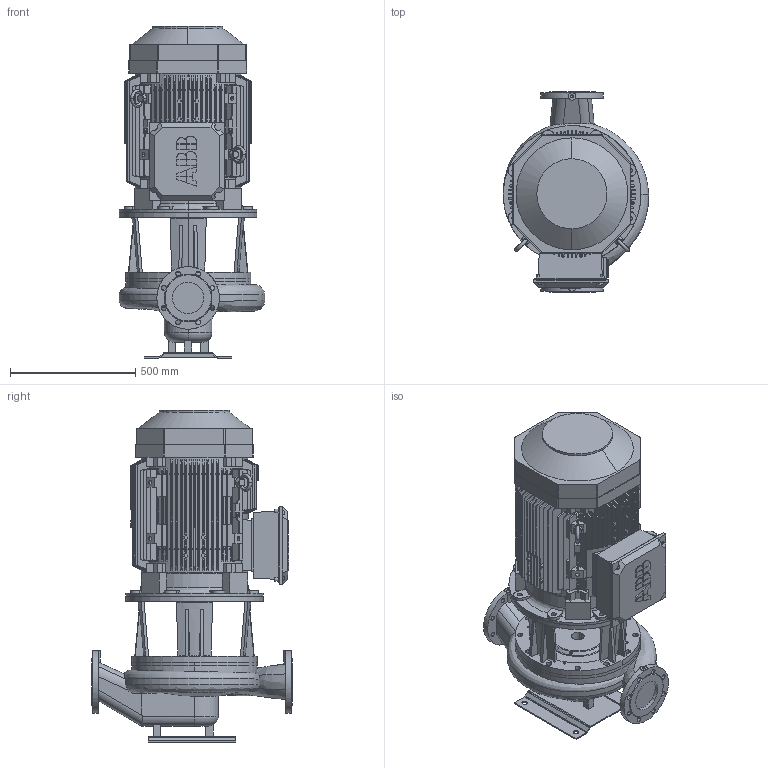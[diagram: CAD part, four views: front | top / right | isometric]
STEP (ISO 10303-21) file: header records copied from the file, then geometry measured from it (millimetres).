
FILE_DESCRIPTION(('STEP AP214'),'1');
FILE_NAME('export.stp','2018-05-30T07:10:33',(' '),(' '),'Spatial InterOp 3D',' ',' ');
FILE_SCHEMA(('AUTOMOTIVE_DESIGN { 1 0 10303 214 1 1 1 1 }'));
Length unit declared in the file: millimetre
Products named in the file (19): W_L125S4SD550; V_TLL125SAL1250; V_PPL125S; P100496; P100495; P100342; P101335; IEC-250; 3GZV183002-193006-183002-183999_; -simplified-simplified_parts_Fan; -simplified-simplified_parts_Ter; 3GZV244000-310999-294000-299999_; 3GZV100000-112999-101007-112999_; -simplified-simplified_parts_Sta; -simplified-simplified_parts_M32; ABBstandard-9ADA_Lifting_Eye_9AD
Assembly tree (20 placements, depth 3):
  W_L125S4SD550
    V_TLL125SAL1250
    V_PPL125S
    P100496
      P100495  x2
      P100342
    P101335
    IEC-250
      3GZV183002-193006-183002-183999_
      -simplified-simplified_parts_Fan
      -simplified-simplified_parts_Ter
      -simplified-simplified_parts_Ter
      3GZV244000-310999-294000-299999_
      3GZV244000-310999-294000-299999_
      3GZV244000-310999-294000-299999_
      3GZV100000-112999-101007-112999_
      -simplified-simplified_parts_Sta
      -simplified-simplified_parts_M32
      ABBstandard-9ADA_Lifting_Eye_9AD  x2
Bounding box: 581.39 x 800 x 1326.66 mm (x, y, z)
Volume: 167075653 mm3; surface area: 7853762.7 mm2
Topology: 15 solids, 209 shells, 2058 faces, 6222 edges, 4373 vertices
Faces by surface type: bspline 1670, cylinder 210, plane 106, torus 40, cone 32
Entity records: 113658 total; most frequent: CARTESIAN_POINT 37363, ORIENTED_EDGE 11136, STYLED_ITEM 6321, PRESENTATION_STYLE_ASSIGNMENT 6321, COLOUR_RGB 6321, EDGE_CURVE 6023, VERTEX_POINT 4246, CURVE_STYLE 4128
